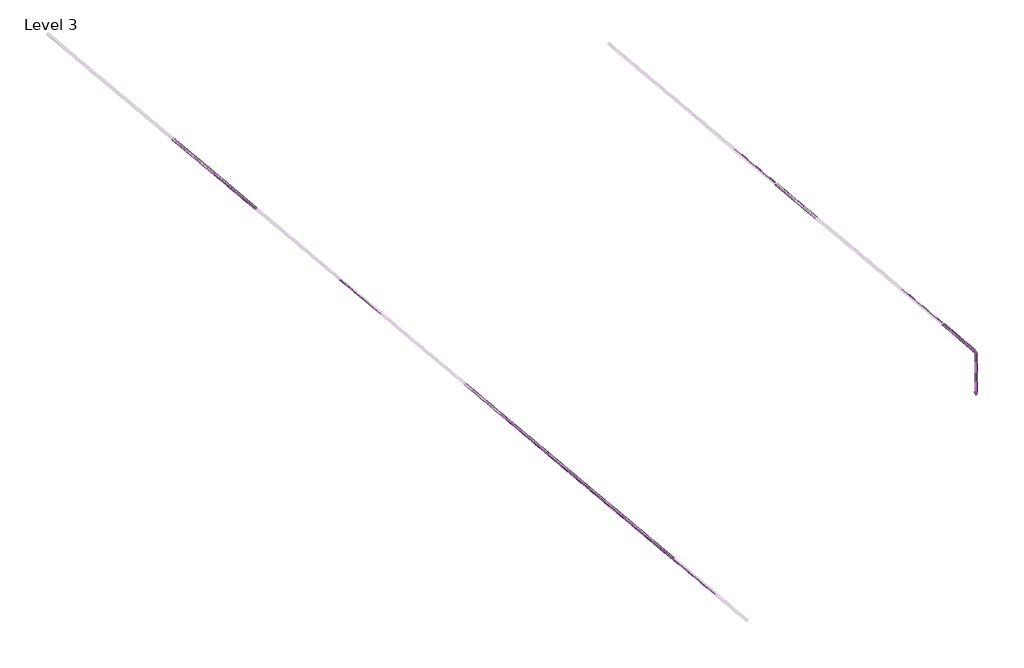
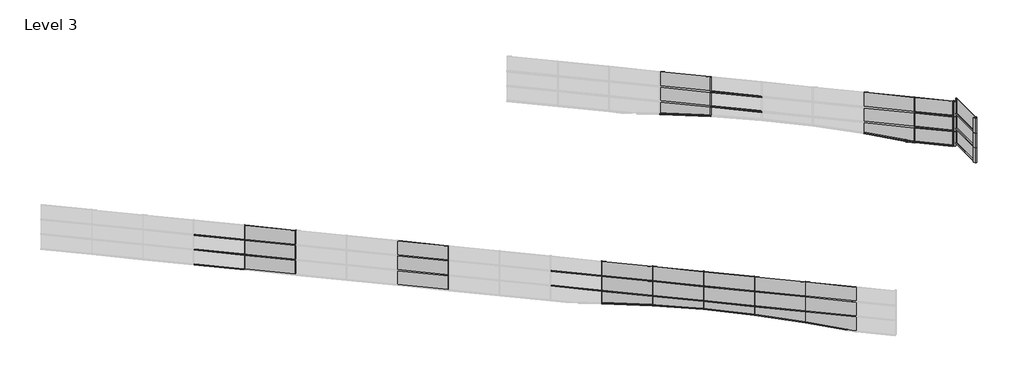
# One storey, part 2 of 4: 69 members, 33 plates.
"""IFC4 building model written with IfcOpenShell, lengths in millimetres."""

from ifc_helpers import new_model, si_unit, origin, place, context, project, spatial, transform, mapped, element, save
from components import member_e6b937b8, member_1b704979, member_8a95ad52, member_4b96d913, member_bcc2c360, member_0c159b81, member_9701ffe2, member_53b3c237, member_f7e23fb3, member_eaba9652, member_34764c31, member_ec9694ca, member_26eb6216, member_3cf8d118, member_5437e2d3, member_d1924ed8, member_3940caa4, member_687d04d0, member_a7cc08f1, member_de1d594c, member_6abdc42e, member_db8f3720, system_panel_glazed_a2c5a472, system_panel_glazed_07eba4bf, system_panel_glazed_742ad3c2, system_panel_glazed_89b2061c, system_panel_glazed_01c37e40, system_panel_glazed_45f33731, system_panel_glazed_fc520028, system_panel_glazed_1d67b1a0, system_panel_glazed_6646462b, system_panel_glazed_a22f2db4

model = new_model("IFC4")

# Units and contexts
model_context = context("Model", 3, world=origin())
ifc_project = project(units=[si_unit("LENGTHUNIT", "METRE", prefix="MILLI")], contexts=[model_context])

# Site, building, storey
site = spatial("IfcSite", under=ifc_project)
building = spatial("IfcBuilding", under=site)
storey = spatial("IfcBuildingStorey", under=building, Name="Level 3", Elevation=6096.0)

# Members
placement = place(None, origin())
member_shape = member_e6b937b8(model_context)
element("IfcMember", 1, ObjectType="Rectangular Mullion : 1.5\" x 2.5\" rectangular", at=placement, inside=storey, context=model_context, shape_type="MappedRepresentation", body=[
    mapped(member_shape, transform((-7247.6950357, 14670.8184669, 7200.3444177), x_axis=(0.76604444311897, -0.6427876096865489, 0.0), y_axis=(0.6427876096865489, 0.76604444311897, 0.0), z_axis=(0.0, 0.0, 1.0))),
])
element("IfcMember", 2, ObjectType="Rectangular Mullion : 1.5\" x 2.5\" rectangular", at=placement, inside=storey, context=model_context, shape_type="MappedRepresentation", body=[
    mapped(member_shape, transform((-16587.3088862, 22507.6850042, 8267.1444177), x_axis=(0.76604444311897, -0.6427876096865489, 0.0), y_axis=(0.6427876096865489, 0.76604444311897, 0.0), z_axis=(0.0, 0.0, 1.0))),
])
element("IfcMember", 3, ObjectType="Rectangular Mullion : 1.5\" x 2.5\" rectangular", at=placement, inside=storey, context=model_context, shape_type="MappedRepresentation", body=[
    mapped(member_shape, transform((-7247.6950357, 14670.8184669, 8267.1444177), x_axis=(0.76604444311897, -0.6427876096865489, 0.0), y_axis=(0.6427876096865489, 0.76604444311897, 0.0), z_axis=(0.0, 0.0, 1.0))),
])
element("IfcMember", 4, ObjectType="Rectangular Mullion : 1.5\" x 2.5\" rectangular", at=placement, inside=storey, context=model_context, shape_type="MappedRepresentation", body=[
    mapped(member_shape, transform((-16587.3088862, 22507.6850042, 9333.9444177), x_axis=(0.76604444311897, -0.6427876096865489, 0.0), y_axis=(0.6427876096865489, 0.76604444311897, 0.0), z_axis=(0.0, 0.0, 1.0))),
])
element("IfcMember", 5, ObjectType="Rectangular Mullion : 1.5\" x 2.5\" rectangular", at=placement, inside=storey, context=model_context, shape_type="MappedRepresentation", body=[
    mapped(member_shape, transform((-7247.6950357, 14670.8184669, 9333.9444177), x_axis=(0.76604444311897, -0.6427876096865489, 0.0), y_axis=(0.6427876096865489, 0.76604444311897, 0.0), z_axis=(0.0, 0.0, 1.0))),
])
element("IfcMember", 6, ObjectType="Rectangular Mullion : 1.5\" x 2.5\" rectangular", at=placement, inside=storey, context=model_context, shape_type="MappedRepresentation", body=[
    mapped(member_shape, transform((-22271.5874816, 1507.8868941, 8267.1444177), x_axis=(-0.76604444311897, 0.6427876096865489, 0.0), y_axis=(-0.6427876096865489, -0.76604444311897, 0.0), z_axis=(0.0, 0.0, 1.0))),
])
element("IfcMember", 7, ObjectType="Rectangular Mullion : 1.5\" x 2.5\" rectangular", at=placement, inside=storey, context=model_context, shape_type="MappedRepresentation", body=[
    mapped(member_shape, transform((-24606.4909442, 3467.1035284, 8267.1444177), x_axis=(-0.76604444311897, 0.6427876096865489, 0.0), y_axis=(-0.6427876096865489, -0.76604444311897, 0.0), z_axis=(0.0, 0.0, 1.0))),
])
element("IfcMember", 8, ObjectType="Rectangular Mullion : 1.5\" x 2.5\" rectangular", at=placement, inside=storey, context=model_context, shape_type="MappedRepresentation", body=[
    mapped(member_shape, transform((-26941.3944069, 5426.3201627, 8267.1444177), x_axis=(-0.76604444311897, 0.6427876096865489, 0.0), y_axis=(-0.6427876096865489, -0.76604444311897, 0.0), z_axis=(0.0, 0.0, 1.0))),
])
element("IfcMember", 9, ObjectType="Rectangular Mullion : 1.5\" x 2.5\" rectangular", at=placement, inside=storey, context=model_context, shape_type="MappedRepresentation", body=[
    mapped(member_shape, transform((-29276.2978695, 7385.536797, 8267.1444177), x_axis=(-0.76604444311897, 0.6427876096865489, 0.0), y_axis=(-0.6427876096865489, -0.76604444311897, 0.0), z_axis=(0.0, 0.0, 1.0))),
])
element("IfcMember", 10, ObjectType="Rectangular Mullion : 1.5\" x 2.5\" rectangular", at=placement, inside=storey, context=model_context, shape_type="MappedRepresentation", body=[
    mapped(member_shape, transform((-31611.2013321, 9344.7534314, 8267.1444177), x_axis=(-0.76604444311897, 0.6427876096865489, 0.0), y_axis=(-0.6427876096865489, -0.76604444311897, 0.0), z_axis=(0.0, 0.0, 1.0))),
])
element("IfcMember", 11, ObjectType="Rectangular Mullion : 1.5\" x 2.5\" rectangular", at=placement, inside=storey, context=model_context, shape_type="MappedRepresentation", body=[
    mapped(member_shape, transform((-22271.5874816, 1507.8868941, 9333.9444177), x_axis=(-0.76604444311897, 0.6427876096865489, 0.0), y_axis=(-0.6427876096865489, -0.76604444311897, 0.0), z_axis=(0.0, 0.0, 1.0))),
])
element("IfcMember", 12, ObjectType="Rectangular Mullion : 1.5\" x 2.5\" rectangular", at=placement, inside=storey, context=model_context, shape_type="MappedRepresentation", body=[
    mapped(member_shape, transform((-24606.4909442, 3467.1035284, 9333.9444177), x_axis=(-0.76604444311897, 0.6427876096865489, 0.0), y_axis=(-0.6427876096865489, -0.76604444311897, 0.0), z_axis=(0.0, 0.0, 1.0))),
])
element("IfcMember", 13, ObjectType="Rectangular Mullion : 1.5\" x 2.5\" rectangular", at=placement, inside=storey, context=model_context, shape_type="MappedRepresentation", body=[
    mapped(member_shape, transform((-26941.3944069, 5426.3201627, 9333.9444177), x_axis=(-0.76604444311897, 0.6427876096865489, 0.0), y_axis=(-0.6427876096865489, -0.76604444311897, 0.0), z_axis=(0.0, 0.0, 1.0))),
])
element("IfcMember", 14, ObjectType="Rectangular Mullion : 1.5\" x 2.5\" rectangular", at=placement, inside=storey, context=model_context, shape_type="MappedRepresentation", body=[
    mapped(member_shape, transform((-29276.2978695, 7385.536797, 9333.9444177), x_axis=(-0.76604444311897, 0.6427876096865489, 0.0), y_axis=(-0.6427876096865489, -0.76604444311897, 0.0), z_axis=(0.0, 0.0, 1.0))),
])
element("IfcMember", 15, ObjectType="Rectangular Mullion : 1.5\" x 2.5\" rectangular", at=placement, inside=storey, context=model_context, shape_type="MappedRepresentation", body=[
    mapped(member_shape, transform((-31611.2013321, 9344.7534314, 9333.9444177), x_axis=(-0.76604444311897, 0.6427876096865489, 0.0), y_axis=(-0.6427876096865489, -0.76604444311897, 0.0), z_axis=(0.0, 0.0, 1.0))),
])
element("IfcMember", 16, ObjectType="Rectangular Mullion : 1.5\" x 2.5\" rectangular", at=placement, inside=storey, context=model_context, shape_type="MappedRepresentation", body=[
    mapped(member_shape, transform((-45620.6221079, 21100.0532373, 7200.3444177), x_axis=(-0.76604444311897, 0.6427876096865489, 0.0), y_axis=(-0.6427876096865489, -0.76604444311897, 0.0), z_axis=(0.0, 0.0, 1.0))),
])
element("IfcMember", 17, ObjectType="Rectangular Mullion : 1.5\" x 2.5\" rectangular", at=placement, inside=storey, context=model_context, shape_type="MappedRepresentation", body=[
    mapped(member_shape, transform((-47955.5255705, 23059.2698716, 7200.3444177), x_axis=(-0.76604444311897, 0.6427876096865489, 0.0), y_axis=(-0.6427876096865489, -0.76604444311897, 0.0), z_axis=(0.0, 0.0, 1.0))),
])
element("IfcMember", 18, ObjectType="Rectangular Mullion : 1.5\" x 2.5\" rectangular", at=placement, inside=storey, context=model_context, shape_type="MappedRepresentation", body=[
    mapped(member_shape, transform((-45620.6221079, 21100.0532373, 8267.1444177), x_axis=(-0.76604444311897, 0.6427876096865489, 0.0), y_axis=(-0.6427876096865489, -0.76604444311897, 0.0), z_axis=(0.0, 0.0, 1.0))),
])
element("IfcMember", 19, ObjectType="Rectangular Mullion : 1.5\" x 2.5\" rectangular", at=placement, inside=storey, context=model_context, shape_type="MappedRepresentation", body=[
    mapped(member_shape, transform((-47955.5255705, 23059.2698716, 8267.1444177), x_axis=(-0.76604444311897, 0.6427876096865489, 0.0), y_axis=(-0.6427876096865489, -0.76604444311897, 0.0), z_axis=(0.0, 0.0, 1.0))),
])
element("IfcMember", 20, ObjectType="Rectangular Mullion : 1.5\" x 2.5\" rectangular", at=placement, inside=storey, context=model_context, shape_type="MappedRepresentation", body=[
    mapped(member_shape, transform((-45620.6221079, 21100.0532373, 9333.9444177), x_axis=(-0.76604444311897, 0.6427876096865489, 0.0), y_axis=(-0.6427876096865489, -0.76604444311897, 0.0), z_axis=(0.0, 0.0, 1.0))),
])
element("IfcMember", 21, ObjectType="Rectangular Mullion : 1.5\" x 2.5\" rectangular", at=placement, inside=storey, context=model_context, shape_type="MappedRepresentation", body=[
    mapped(member_shape, transform((-47955.5255705, 23059.2698716, 9333.9444177), x_axis=(-0.76604444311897, 0.6427876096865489, 0.0), y_axis=(-0.6427876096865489, -0.76604444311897, 0.0), z_axis=(0.0, 0.0, 1.0))),
])
member_2_shape = member_1b704979(model_context)
element("IfcMember", 22, ObjectType="Rectangular Mullion : 1.5\" x 2.5\" rectangular", at=placement, inside=storey, context=model_context, shape_type="MappedRepresentation", body=[
    mapped(member_2_shape, transform((-5348.7113943, 13077.3819938, 6400.8), x_axis=(0.0, 1.0, 0.0), y_axis=(1.0, 0.0, 0.0), z_axis=(0.0, 0.0, -1.0))),
])
element("IfcMember", 23, ObjectType="Rectangular Mullion : 1.5\" x 2.5\" rectangular", at=placement, inside=storey, context=model_context, shape_type="MappedRepresentation", body=[
    mapped(member_2_shape, transform((-5348.7113943, 13077.3819938, 7467.6), x_axis=(0.0, 1.0, 0.0), y_axis=(1.0, 0.0, 0.0), z_axis=(0.0, 0.0, -1.0))),
])
element("IfcMember", 24, ObjectType="Rectangular Mullion : 1.5\" x 2.5\" rectangular", at=placement, inside=storey, context=model_context, shape_type="MappedRepresentation", body=[
    mapped(member_2_shape, transform((-5348.7113943, 13077.3819938, 8534.4), x_axis=(0.0, 1.0, 0.0), y_axis=(1.0, 0.0, 0.0), z_axis=(0.0, 0.0, -1.0))),
])
member_3_shape = member_8a95ad52(model_context)
element("IfcMember", 25, ObjectType="Rectangular Mullion : 1.5\" x 2.5\" rectangular", at=placement, inside=storey, context=model_context, shape_type="MappedRepresentation", body=[
    mapped(member_3_shape, transform((-7247.6950357, 14670.8184669, 6133.5444177), x_axis=(0.76604444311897, -0.6427876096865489, 0.0), y_axis=(0.6427876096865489, 0.76604444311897, 0.0), z_axis=(0.0, 0.0, 1.0))),
])
member_4_shape = member_4b96d913(model_context)
element("IfcMember", 26, ObjectType="Rectangular Mullion : 1.5\" x 2.5\" rectangular", at=placement, inside=storey, context=model_context, shape_type="MappedRepresentation", body=[
    mapped(member_4_shape, transform((-16587.3088862, 22507.6850042, 7200.3444177), x_axis=(0.76604444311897, -0.6427876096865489, 0.0), y_axis=(0.6427876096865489, 0.76604444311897, 0.0), z_axis=(0.0, 0.0, 1.0))),
])
member_5_shape = member_bcc2c360(model_context)
element("IfcMember", 27, ObjectType="Rectangular Mullion : 1.5\" x 2.5\" rectangular", at=placement, inside=storey, context=model_context, shape_type="MappedRepresentation", body=[
    mapped(member_5_shape, transform((-22271.5874816, 1507.8868941, 7200.3444177), x_axis=(-0.76604444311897, 0.6427876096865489, 0.0), y_axis=(-0.6427876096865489, -0.76604444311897, 0.0), z_axis=(0.0, 0.0, 1.0))),
])
member_6_shape = member_0c159b81(model_context)
element("IfcMember", 28, ObjectType="Rectangular Mullion : 1.5\" x 2.5\" rectangular", at=placement, inside=storey, context=model_context, shape_type="MappedRepresentation", body=[
    mapped(member_6_shape, transform((-24606.4909442, 3467.1035284, 7200.3444177), x_axis=(-0.76604444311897, 0.6427876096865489, 0.0), y_axis=(-0.6427876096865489, -0.76604444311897, 0.0), z_axis=(0.0, 0.0, 1.0))),
])
member_7_shape = member_9701ffe2(model_context)
element("IfcMember", 29, ObjectType="Rectangular Mullion : 1.5\" x 2.5\" rectangular", at=placement, inside=storey, context=model_context, shape_type="MappedRepresentation", body=[
    mapped(member_7_shape, transform((-26941.3944069, 5426.3201627, 7200.3444177), x_axis=(-0.76604444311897, 0.6427876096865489, 0.0), y_axis=(-0.6427876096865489, -0.76604444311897, 0.0), z_axis=(0.0, 0.0, 1.0))),
])
member_8_shape = member_53b3c237(model_context)
element("IfcMember", 30, ObjectType="Rectangular Mullion : 1.5\" x 2.5\" rectangular", at=placement, inside=storey, context=model_context, shape_type="MappedRepresentation", body=[
    mapped(member_8_shape, transform((-29276.2978695, 7385.536797, 7200.3444177), x_axis=(-0.76604444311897, 0.6427876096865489, 0.0), y_axis=(-0.6427876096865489, -0.76604444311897, 0.0), z_axis=(0.0, 0.0, 1.0))),
])
member_9_shape = member_f7e23fb3(model_context)
element("IfcMember", 31, ObjectType="Rectangular Mullion : 1.5\" x 2.5\" rectangular", at=placement, inside=storey, context=model_context, shape_type="MappedRepresentation", body=[
    mapped(member_9_shape, transform((-31611.2013321, 9344.7534314, 7200.3444177), x_axis=(-0.76604444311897, 0.6427876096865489, 0.0), y_axis=(-0.6427876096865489, -0.76604444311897, 0.0), z_axis=(0.0, 0.0, 1.0))),
])
member_10_shape = member_eaba9652(model_context)
element("IfcMember", 32, ObjectType="Rectangular Mullion : 2.5\" x 5\" rectangular", at=placement, inside=storey, context=model_context, shape_type="MappedRepresentation", body=[
    mapped(member_10_shape, transform((-16587.3088862, 22507.6850042, 7232.0944177), x_axis=(0.0, 0.0, 1.0), y_axis=(0.6427876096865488, 0.7660444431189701, 0.0), z_axis=(-0.7660444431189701, 0.6427876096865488, 0.0))),
])
element("IfcMember", 33, ObjectType="Rectangular Mullion : 2.5\" x 5\" rectangular", at=placement, inside=storey, context=model_context, shape_type="MappedRepresentation", body=[
    mapped(member_10_shape, transform((-16587.3088862, 22507.6850042, 8298.8944177), x_axis=(0.0, 0.0, 1.0), y_axis=(0.6427876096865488, 0.7660444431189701, 0.0), z_axis=(-0.7660444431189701, 0.6427876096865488, 0.0))),
])
element("IfcMember", 34, ObjectType="Rectangular Mullion : 2.5\" x 5\" rectangular", at=placement, inside=storey, context=model_context, shape_type="MappedRepresentation", body=[
    mapped(member_10_shape, transform((-22271.5874816, 1507.8868941, 7232.0944177), x_axis=(0.0, 0.0, 1.0), y_axis=(-0.6427876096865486, -0.7660444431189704, 0.0), z_axis=(0.7660444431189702, -0.6427876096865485, 0.0))),
])
element("IfcMember", 35, ObjectType="Rectangular Mullion : 2.5\" x 5\" rectangular", at=placement, inside=storey, context=model_context, shape_type="MappedRepresentation", body=[
    mapped(member_10_shape, transform((-24606.4909442, 3467.1035284, 7232.0944177), x_axis=(0.0, 0.0, 1.0), y_axis=(-0.6427876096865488, -0.7660444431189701, 0.0), z_axis=(0.7660444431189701, -0.6427876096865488, 0.0))),
])
element("IfcMember", 36, ObjectType="Rectangular Mullion : 2.5\" x 5\" rectangular", at=placement, inside=storey, context=model_context, shape_type="MappedRepresentation", body=[
    mapped(member_10_shape, transform((-26941.3944069, 5426.3201627, 7232.0944177), x_axis=(0.0, 0.0, 1.0), y_axis=(-0.6427876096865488, -0.7660444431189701, 0.0), z_axis=(0.7660444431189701, -0.6427876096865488, 0.0))),
])
element("IfcMember", 37, ObjectType="Rectangular Mullion : 2.5\" x 5\" rectangular", at=placement, inside=storey, context=model_context, shape_type="MappedRepresentation", body=[
    mapped(member_10_shape, transform((-29276.2978695, 7385.536797, 7232.0944177), x_axis=(0.0, 0.0, 1.0), y_axis=(-0.6427876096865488, -0.7660444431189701, 0.0), z_axis=(0.7660444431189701, -0.6427876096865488, 0.0))),
])
element("IfcMember", 38, ObjectType="Rectangular Mullion : 2.5\" x 5\" rectangular", at=placement, inside=storey, context=model_context, shape_type="MappedRepresentation", body=[
    mapped(member_10_shape, transform((-31611.2013321, 9344.7534314, 7232.0944177), x_axis=(0.0, 0.0, 1.0), y_axis=(-0.6427876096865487, -0.7660444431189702, 0.0), z_axis=(0.7660444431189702, -0.6427876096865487, 0.0))),
])
element("IfcMember", 39, ObjectType="Rectangular Mullion : 2.5\" x 5\" rectangular", at=placement, inside=storey, context=model_context, shape_type="MappedRepresentation", body=[
    mapped(member_10_shape, transform((-22271.5874816, 1507.8868941, 8298.8944177), x_axis=(0.0, 0.0, 1.0), y_axis=(-0.6427876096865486, -0.7660444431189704, 0.0), z_axis=(0.7660444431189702, -0.6427876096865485, 0.0))),
])
element("IfcMember", 40, ObjectType="Rectangular Mullion : 2.5\" x 5\" rectangular", at=placement, inside=storey, context=model_context, shape_type="MappedRepresentation", body=[
    mapped(member_10_shape, transform((-24606.4909442, 3467.1035284, 8298.8944177), x_axis=(0.0, 0.0, 1.0), y_axis=(-0.6427876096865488, -0.7660444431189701, 0.0), z_axis=(0.7660444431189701, -0.6427876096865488, 0.0))),
])
element("IfcMember", 41, ObjectType="Rectangular Mullion : 2.5\" x 5\" rectangular", at=placement, inside=storey, context=model_context, shape_type="MappedRepresentation", body=[
    mapped(member_10_shape, transform((-26941.3944069, 5426.3201627, 8298.8944177), x_axis=(0.0, 0.0, 1.0), y_axis=(-0.6427876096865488, -0.7660444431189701, 0.0), z_axis=(0.7660444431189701, -0.6427876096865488, 0.0))),
])
element("IfcMember", 42, ObjectType="Rectangular Mullion : 2.5\" x 5\" rectangular", at=placement, inside=storey, context=model_context, shape_type="MappedRepresentation", body=[
    mapped(member_10_shape, transform((-29276.2978695, 7385.536797, 8298.8944177), x_axis=(0.0, 0.0, 1.0), y_axis=(-0.6427876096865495, -0.7660444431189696, 0.0), z_axis=(0.7660444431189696, -0.6427876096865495, 0.0))),
])
element("IfcMember", 43, ObjectType="Rectangular Mullion : 2.5\" x 5\" rectangular", at=placement, inside=storey, context=model_context, shape_type="MappedRepresentation", body=[
    mapped(member_10_shape, transform((-31611.2013321, 9344.7534314, 8298.8944177), x_axis=(0.0, 0.0, 1.0), y_axis=(-0.6427876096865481, -0.7660444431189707, 0.0), z_axis=(0.7660444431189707, -0.6427876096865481, 0.0))),
])
element("IfcMember", 44, ObjectType="Rectangular Mullion : 2.5\" x 5\" rectangular", at=placement, inside=storey, context=model_context, shape_type="MappedRepresentation", body=[
    mapped(member_10_shape, transform((-47955.5255705, 23059.2698716, 6165.2944177), x_axis=(0.0, 0.0, 1.0), y_axis=(-0.642787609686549, -0.76604444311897, 0.0), z_axis=(0.7660444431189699, -0.6427876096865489, 0.0))),
])
element("IfcMember", 45, ObjectType="Rectangular Mullion : 2.5\" x 5\" rectangular", at=placement, inside=storey, context=model_context, shape_type="MappedRepresentation", body=[
    mapped(member_10_shape, transform((-45620.6221079, 21100.0532373, 7232.0944177), x_axis=(0.0, 0.0, 1.0), y_axis=(-0.64278760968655, -0.766044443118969, 0.0), z_axis=(0.766044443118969, -0.64278760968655, 0.0))),
])
element("IfcMember", 46, ObjectType="Rectangular Mullion : 2.5\" x 5\" rectangular", at=placement, inside=storey, context=model_context, shape_type="MappedRepresentation", body=[
    mapped(member_10_shape, transform((-47955.5255705, 23059.2698716, 7232.0944177), x_axis=(0.0, 0.0, 1.0), y_axis=(-0.642787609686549, -0.76604444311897, 0.0), z_axis=(0.7660444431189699, -0.6427876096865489, 0.0))),
])
element("IfcMember", 47, ObjectType="Rectangular Mullion : 2.5\" x 5\" rectangular", at=placement, inside=storey, context=model_context, shape_type="MappedRepresentation", body=[
    mapped(member_10_shape, transform((-45620.6221079, 21100.0532373, 8298.8944177), x_axis=(0.0, 0.0, 1.0), y_axis=(-0.6427876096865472, -0.7660444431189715, 0.0), z_axis=(0.7660444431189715, -0.6427876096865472, 0.0))),
])
element("IfcMember", 48, ObjectType="Rectangular Mullion : 2.5\" x 5\" rectangular", at=placement, inside=storey, context=model_context, shape_type="MappedRepresentation", body=[
    mapped(member_10_shape, transform((-47955.5255705, 23059.2698716, 8298.8944177), x_axis=(0.0, 0.0, 1.0), y_axis=(-0.642787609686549, -0.76604444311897, 0.0), z_axis=(0.7660444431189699, -0.6427876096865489, 0.0))),
])
member_11_shape = member_34764c31(model_context)
element("IfcMember", 49, ObjectType="Rectangular Mullion : 2.5\" x 5\" rectangular", at=placement, inside=storey, context=model_context, shape_type="MappedRepresentation", body=[
    mapped(member_11_shape, transform((-5348.7113943, 13039.2819938, 6400.8), x_axis=(0.0, 0.0, 1.0), y_axis=(1.0, 0.0, 0.0), z_axis=(0.0, 1.0, 0.0))),
])
element("IfcMember", 50, ObjectType="Rectangular Mullion : 2.5\" x 5\" rectangular", at=placement, inside=storey, context=model_context, shape_type="MappedRepresentation", body=[
    mapped(member_11_shape, transform((-5348.7113943, 13039.2819938, 7467.6), x_axis=(0.0, 0.0, 1.0), y_axis=(1.0, 0.0, 0.0), z_axis=(0.0, 1.0, 0.0))),
])
element("IfcMember", 51, ObjectType="Rectangular Mullion : 2.5\" x 5\" rectangular", at=placement, inside=storey, context=model_context, shape_type="MappedRepresentation", body=[
    mapped(member_11_shape, transform((-5348.7113943, 13039.2819938, 8534.4), x_axis=(0.0, 0.0, 1.0), y_axis=(1.0, 0.0, 0.0), z_axis=(0.0, 1.0, 0.0))),
])
member_12_shape = member_ec9694ca(model_context)
element("IfcMember", 52, ObjectType="Rectangular Mullion : 2.5\" x 5\" rectangular", at=placement, inside=storey, context=model_context, shape_type="MappedRepresentation", body=[
    mapped(member_12_shape, transform((-7247.6950357, 14670.8184669, 6165.2944177), x_axis=(0.0, 0.0, 1.0), y_axis=(0.6427876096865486, 0.7660444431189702, 0.0), z_axis=(-0.7660444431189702, 0.6427876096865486, 0.0))),
])
element("IfcMember", 53, ObjectType="Rectangular Mullion : 2.5\" x 5\" rectangular", at=placement, inside=storey, context=model_context, shape_type="MappedRepresentation", body=[
    mapped(member_12_shape, transform((-7247.6950357, 14670.8184669, 7232.0944177), x_axis=(0.0, 0.0, 1.0), y_axis=(0.6427876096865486, 0.7660444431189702, 0.0), z_axis=(-0.7660444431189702, 0.6427876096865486, 0.0))),
])
element("IfcMember", 54, ObjectType="Rectangular Mullion : 2.5\" x 5\" rectangular", at=placement, inside=storey, context=model_context, shape_type="MappedRepresentation", body=[
    mapped(member_12_shape, transform((-7247.6950357, 14670.8184669, 8298.8944177), x_axis=(0.0, 0.0, 1.0), y_axis=(0.6427876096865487, 0.7660444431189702, 0.0), z_axis=(-0.7660444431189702, 0.6427876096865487, 0.0))),
])
member_13_shape = member_26eb6216(model_context)
element("IfcMember", 55, ObjectType="Rectangular Mullion : 2.5\" x 5\" rectangular", at=placement, inside=storey, context=model_context, shape_type="MappedRepresentation", body=[
    mapped(member_13_shape, transform((-7644.1889217, 15003.5163404, 6165.2944177), x_axis=(0.0, 0.0, 1.0), y_axis=(0.6427876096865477, 0.766044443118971, 0.0), z_axis=(-0.766044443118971, 0.6427876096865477, 0.0))),
])
member_14_shape = member_3cf8d118(model_context)
element("IfcMember", 56, ObjectType="Rectangular Mullion : 2.5\" x 5\" rectangular", at=placement, inside=storey, context=model_context, shape_type="MappedRepresentation", body=[
    mapped(member_14_shape, transform((-16587.3088862, 22507.6850042, 6535.0816932), x_axis=(0.056130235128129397, -0.04709885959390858, -0.9973119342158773), y_axis=(0.642787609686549, 0.76604444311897, 0.0), z_axis=(0.7639852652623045, -0.6410597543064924, 0.07327281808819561))),
])
member_15_shape = member_5437e2d3(model_context)
element("IfcMember", 57, ObjectType="Rectangular Mullion : 2.5\" x 5\" rectangular", at=placement, inside=storey, context=model_context, shape_type="MappedRepresentation", body=[
    mapped(member_15_shape, transform((-7247.6950357, 14670.8184669, 6103.6088093), x_axis=(-0.09065519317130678, 0.07606873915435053, -0.992972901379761), y_axis=(0.6427876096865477, 0.7660444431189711, 0.0), z_axis=(0.760661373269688, -0.6382706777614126, -0.11834194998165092))),
])
member_16_shape = member_d1924ed8(model_context)
element("IfcMember", 58, ObjectType="Rectangular Mullion : 2.5\" x 5\" rectangular", at=placement, inside=storey, context=model_context, shape_type="MappedRepresentation", body=[
    mapped(member_16_shape, transform((-7644.1889217, 15003.5163404, 6165.2944177), x_axis=(-0.07404514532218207, 0.06213125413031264, -0.9953175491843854), y_axis=(0.6427876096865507, 0.7660444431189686, 0.0), z_axis=(0.762457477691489, -0.6397777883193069, -0.09665907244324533))),
])
member_17_shape = member_3940caa4(model_context)
element("IfcMember", 59, ObjectType="Rectangular Mullion : 2.5\" x 5\" rectangular", at=placement, inside=storey, context=model_context, shape_type="MappedRepresentation", body=[
    mapped(member_17_shape, transform((-22271.5874816, 1507.8868941, 6411.0325358), x_axis=(-0.0740451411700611, 0.06213125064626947, -0.9953175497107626), y_axis=(-0.6427876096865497, -0.7660444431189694, 0.0), z_axis=(-0.7624574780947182, 0.6397777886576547, 0.09665906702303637))),
])
member_18_shape = member_687d04d0(model_context)
element("IfcMember", 60, ObjectType="Rectangular Mullion : 2.5\" x 5\" rectangular", at=placement, inside=storey, context=model_context, shape_type="MappedRepresentation", body=[
    mapped(member_18_shape, transform((-24606.4909442, 3467.1035284, 6584.8842876), x_axis=(-0.043622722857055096, 0.03660381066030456, -0.9983772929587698), y_axis=(-0.6427876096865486, -0.7660444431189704, 0.0), z_axis=(-0.7648013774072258, 0.6417445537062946, 0.05694542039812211))),
])
member_19_shape = member_a7cc08f1(model_context)
element("IfcMember", 61, ObjectType="Rectangular Mullion : 2.5\" x 5\" rectangular", at=placement, inside=storey, context=model_context, shape_type="MappedRepresentation", body=[
    mapped(member_19_shape, transform((-26941.3944069, 5426.3201627, 6626.1559819), x_axis=(-0.010371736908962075, 0.00870292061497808, -0.9999083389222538), y_axis=(-0.6427876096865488, -0.76604444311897, 0.0), z_axis=(-0.7659742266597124, 0.642728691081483, 0.01353934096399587))),
])
member_20_shape = member_de1d594c(model_context)
element("IfcMember", 62, ObjectType="Rectangular Mullion : 2.5\" x 5\" rectangular", at=placement, inside=storey, context=model_context, shape_type="MappedRepresentation", body=[
    mapped(member_20_shape, transform((-29276.2978695, 7385.536797, 6535.0816494), x_axis=(0.022879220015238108, -0.019197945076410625, -0.9995538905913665), y_axis=(-0.6427876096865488, -0.7660444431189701, 0.0), z_axis=(-0.7657027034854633, 0.6425008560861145, -0.029866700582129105))),
])
member_21_shape = member_6abdc42e(model_context)
element("IfcMember", 63, ObjectType="Rectangular Mullion : 2.5\" x 5\" rectangular", at=placement, inside=storey, context=model_context, shape_type="MappedRepresentation", body=[
    mapped(member_21_shape, transform((-31611.2013321, 9344.7534314, 6311.1441342), x_axis=(0.05613023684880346, -0.04709886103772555, -0.9973119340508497), y_axis=(-0.6427876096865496, -0.7660444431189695, 0.0), z_axis=(-0.7639852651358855, 0.6410597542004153, -0.07327282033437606))),
])
member_22_shape = member_db8f3720(model_context)
element("IfcMember", 64, ObjectType="V Corner Mullion : 5\" V Corner", at=placement, inside=storey, context=model_context, shape_type="MappedRepresentation", body=[
    mapped(member_22_shape, transform((-5348.7113943, 10769.3870607, 7467.6), x_axis=(0.0, -1.0, 0.0), y_axis=(1.0, 0.0, 0.0), z_axis=(0.0, 0.0, 1.0))),
])
element("IfcMember", 65, ObjectType="V Corner Mullion : 5\" V Corner", at=placement, inside=storey, context=model_context, shape_type="MappedRepresentation", body=[
    mapped(member_22_shape, transform((-5348.7113943, 10769.3870607, 8534.4), x_axis=(0.0, -1.0, 0.0), y_axis=(1.0, 0.0, 0.0), z_axis=(0.0, 0.0, 1.0))),
])
element("IfcMember", 66, ObjectType="V Corner Mullion : 5\" V Corner", at=placement, inside=storey, context=model_context, shape_type="MappedRepresentation", body=[
    mapped(member_22_shape, transform((-5348.7113943, 10769.3870607, 9601.2), x_axis=(0.0, -1.0, 0.0), y_axis=(1.0, 0.0, 0.0), z_axis=(0.0, 0.0, 1.0))),
])
element("IfcMember", 67, ObjectType="V Corner Mullion : 5\" V Corner", at=placement, inside=storey, context=model_context, shape_type="MappedRepresentation", body=[
    mapped(member_22_shape, transform((-5440.5496741, 13154.4434605, 7232.0944177), x_axis=(0.76604444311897, -0.6427876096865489, 0.0), y_axis=(0.6427876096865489, 0.76604444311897, 0.0), z_axis=(0.0, 0.0, 1.0))),
])
element("IfcMember", 68, ObjectType="V Corner Mullion : 5\" V Corner", at=placement, inside=storey, context=model_context, shape_type="MappedRepresentation", body=[
    mapped(member_22_shape, transform((-5440.5496741, 13154.4434605, 8298.8944177), x_axis=(0.76604444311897, -0.6427876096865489, 0.0), y_axis=(0.6427876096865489, 0.76604444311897, 0.0), z_axis=(0.0, 0.0, 1.0))),
])
element("IfcMember", 69, ObjectType="V Corner Mullion : 5\" V Corner", at=placement, inside=storey, context=model_context, shape_type="MappedRepresentation", body=[
    mapped(member_22_shape, transform((-5440.5496741, 13154.4434605, 9365.6944177), x_axis=(0.76604444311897, -0.6427876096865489, 0.0), y_axis=(0.6427876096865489, 0.76604444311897, 0.0), z_axis=(0.0, 0.0, 1.0))),
])

# Plates
system_panel_glazed_shape = system_panel_glazed_a2c5a472(model_context)
element("IfcPlate", 70, ObjectType="System Panel : Glazed", at=placement, inside=storey, context=model_context, shape_type="MappedRepresentation", body=[
    mapped(system_panel_glazed_shape, transform((-39783.3634513, 16202.0116515, 6197.0444177), x_axis=(-0.76604444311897, 0.6427876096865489, 0.0), y_axis=(-0.6427876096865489, -0.76604444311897, 0.0), z_axis=(0.0, 0.0, 1.0))),
])
element("IfcPlate", 71, ObjectType="System Panel : Glazed", at=placement, inside=storey, context=model_context, shape_type="MappedRepresentation", body=[
    mapped(system_panel_glazed_shape, transform((-21104.1357503, 528.2785769, 7263.8444177), x_axis=(-0.76604444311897, 0.6427876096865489, 0.0), y_axis=(-0.6427876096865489, -0.76604444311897, 0.0), z_axis=(0.0, 0.0, 1.0))),
])
element("IfcPlate", 72, ObjectType="System Panel : Glazed", at=placement, inside=storey, context=model_context, shape_type="MappedRepresentation", body=[
    mapped(system_panel_glazed_shape, transform((-23439.0392129, 2487.4952112, 7263.8444177), x_axis=(-0.76604444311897, 0.6427876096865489, 0.0), y_axis=(-0.6427876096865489, -0.76604444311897, 0.0), z_axis=(0.0, 0.0, 1.0))),
])
element("IfcPlate", 73, ObjectType="System Panel : Glazed", at=placement, inside=storey, context=model_context, shape_type="MappedRepresentation", body=[
    mapped(system_panel_glazed_shape, transform((-25773.9426755, 4446.7118456, 7263.8444177), x_axis=(-0.76604444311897, 0.6427876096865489, 0.0), y_axis=(-0.6427876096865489, -0.76604444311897, 0.0), z_axis=(0.0, 0.0, 1.0))),
])
element("IfcPlate", 74, ObjectType="System Panel : Glazed", at=placement, inside=storey, context=model_context, shape_type="MappedRepresentation", body=[
    mapped(system_panel_glazed_shape, transform((-28108.8461382, 6405.9284799, 7263.8444177), x_axis=(-0.76604444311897, 0.6427876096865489, 0.0), y_axis=(-0.6427876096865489, -0.76604444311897, 0.0), z_axis=(0.0, 0.0, 1.0))),
])
element("IfcPlate", 75, ObjectType="System Panel : Glazed", at=placement, inside=storey, context=model_context, shape_type="MappedRepresentation", body=[
    mapped(system_panel_glazed_shape, transform((-30443.7496008, 8365.1451142, 7263.8444177), x_axis=(-0.76604444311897, 0.6427876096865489, 0.0), y_axis=(-0.6427876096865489, -0.76604444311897, 0.0), z_axis=(0.0, 0.0, 1.0))),
])
element("IfcPlate", 76, ObjectType="System Panel : Glazed", at=placement, inside=storey, context=model_context, shape_type="MappedRepresentation", body=[
    mapped(system_panel_glazed_shape, transform((-39783.3634513, 16202.0116515, 7263.8444177), x_axis=(-0.76604444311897, 0.6427876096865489, 0.0), y_axis=(-0.6427876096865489, -0.76604444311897, 0.0), z_axis=(0.0, 0.0, 1.0))),
])
element("IfcPlate", 77, ObjectType="System Panel : Glazed", at=placement, inside=storey, context=model_context, shape_type="MappedRepresentation", body=[
    mapped(system_panel_glazed_shape, transform((-21104.1357503, 528.2785769, 8330.6444177), x_axis=(-0.76604444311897, 0.6427876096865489, 0.0), y_axis=(-0.6427876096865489, -0.76604444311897, 0.0), z_axis=(0.0, 0.0, 1.0))),
])
element("IfcPlate", 78, ObjectType="System Panel : Glazed", at=placement, inside=storey, context=model_context, shape_type="MappedRepresentation", body=[
    mapped(system_panel_glazed_shape, transform((-23439.0392129, 2487.4952112, 8330.6444177), x_axis=(-0.76604444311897, 0.6427876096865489, 0.0), y_axis=(-0.6427876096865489, -0.76604444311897, 0.0), z_axis=(0.0, 0.0, 1.0))),
])
element("IfcPlate", 79, ObjectType="System Panel : Glazed", at=placement, inside=storey, context=model_context, shape_type="MappedRepresentation", body=[
    mapped(system_panel_glazed_shape, transform((-25773.9426755, 4446.7118456, 8330.6444177), x_axis=(-0.76604444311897, 0.6427876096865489, 0.0), y_axis=(-0.6427876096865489, -0.76604444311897, 0.0), z_axis=(0.0, 0.0, 1.0))),
])
element("IfcPlate", 80, ObjectType="System Panel : Glazed", at=placement, inside=storey, context=model_context, shape_type="MappedRepresentation", body=[
    mapped(system_panel_glazed_shape, transform((-28108.8461382, 6405.9284799, 8330.6444177), x_axis=(-0.76604444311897, 0.6427876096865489, 0.0), y_axis=(-0.6427876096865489, -0.76604444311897, 0.0), z_axis=(0.0, 0.0, 1.0))),
])
element("IfcPlate", 81, ObjectType="System Panel : Glazed", at=placement, inside=storey, context=model_context, shape_type="MappedRepresentation", body=[
    mapped(system_panel_glazed_shape, transform((-30443.7496008, 8365.1451142, 8330.6444177), x_axis=(-0.76604444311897, 0.6427876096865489, 0.0), y_axis=(-0.6427876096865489, -0.76604444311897, 0.0), z_axis=(0.0, 0.0, 1.0))),
])
element("IfcPlate", 82, ObjectType="System Panel : Glazed", at=placement, inside=storey, context=model_context, shape_type="MappedRepresentation", body=[
    mapped(system_panel_glazed_shape, transform((-39783.3634513, 16202.0116515, 8330.6444177), x_axis=(-0.76604444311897, 0.6427876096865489, 0.0), y_axis=(-0.6427876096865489, -0.76604444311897, 0.0), z_axis=(0.0, 0.0, 1.0))),
])
element("IfcPlate", 83, ObjectType="System Panel : Glazed", at=placement, inside=storey, context=model_context, shape_type="MappedRepresentation", body=[
    mapped(system_panel_glazed_shape, transform((-46788.0738392, 22079.6615545, 6197.0444177), x_axis=(-0.76604444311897, 0.6427876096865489, 0.0), y_axis=(-0.6427876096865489, -0.76604444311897, 0.0), z_axis=(0.0, 0.0, 1.0))),
])
element("IfcPlate", 84, ObjectType="System Panel : Glazed", at=placement, inside=storey, context=model_context, shape_type="MappedRepresentation", body=[
    mapped(system_panel_glazed_shape, transform((-46788.0738392, 22079.6615545, 7263.8444177), x_axis=(-0.76604444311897, 0.6427876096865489, 0.0), y_axis=(-0.6427876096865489, -0.76604444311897, 0.0), z_axis=(0.0, 0.0, 1.0))),
])
element("IfcPlate", 85, ObjectType="System Panel : Glazed", at=placement, inside=storey, context=model_context, shape_type="MappedRepresentation", body=[
    mapped(system_panel_glazed_shape, transform((-46788.0738392, 22079.6615545, 8330.6444177), x_axis=(-0.76604444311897, 0.6427876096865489, 0.0), y_axis=(-0.6427876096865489, -0.76604444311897, 0.0), z_axis=(0.0, 0.0, 1.0))),
])
element("IfcPlate", 86, ObjectType="System Panel : Glazed", at=placement, inside=storey, context=model_context, shape_type="MappedRepresentation", body=[
    mapped(system_panel_glazed_shape, transform((-17754.7606176, 23487.2933214, 7263.8444177), x_axis=(0.76604444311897, -0.6427876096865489, 0.0), y_axis=(0.6427876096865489, 0.76604444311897, 0.0), z_axis=(0.0, 0.0, 1.0))),
])
element("IfcPlate", 87, ObjectType="System Panel : Glazed", at=placement, inside=storey, context=model_context, shape_type="MappedRepresentation", body=[
    mapped(system_panel_glazed_shape, transform((-17754.7606176, 23487.2933214, 8330.6444177), x_axis=(0.76604444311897, -0.6427876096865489, 0.0), y_axis=(0.6427876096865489, 0.76604444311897, 0.0), z_axis=(0.0, 0.0, 1.0))),
])
element("IfcPlate", 88, ObjectType="System Panel : Glazed", at=placement, inside=storey, context=model_context, shape_type="MappedRepresentation", body=[
    mapped(system_panel_glazed_shape, transform((-8415.146767, 15650.4267841, 7263.8444177), x_axis=(0.76604444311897, -0.6427876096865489, 0.0), y_axis=(0.6427876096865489, 0.76604444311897, 0.0), z_axis=(0.0, 0.0, 1.0))),
])
element("IfcPlate", 89, ObjectType="System Panel : Glazed", at=placement, inside=storey, context=model_context, shape_type="MappedRepresentation", body=[
    mapped(system_panel_glazed_shape, transform((-8415.146767, 15650.4267841, 8330.6444177), x_axis=(0.76604444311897, -0.6427876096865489, 0.0), y_axis=(0.6427876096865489, 0.76604444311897, 0.0), z_axis=(0.0, 0.0, 1.0))),
])
system_panel_glazed_2_shape = system_panel_glazed_07eba4bf(model_context)
element("IfcPlate", 90, ObjectType="System Panel : Glazed", at=placement, inside=storey, context=model_context, shape_type="MappedRepresentation", body=[
    mapped(system_panel_glazed_2_shape, transform((-5348.7113943, 11940.5959678, 6432.55), x_axis=(0.0, -1.0, 0.0), y_axis=(1.0, 0.0, 0.0), z_axis=(0.0, 0.0, 1.0))),
])
element("IfcPlate", 91, ObjectType="System Panel : Glazed", at=placement, inside=storey, context=model_context, shape_type="MappedRepresentation", body=[
    mapped(system_panel_glazed_2_shape, transform((-5348.7113943, 11940.5959678, 7499.35), x_axis=(0.0, -1.0, 0.0), y_axis=(1.0, 0.0, 0.0), z_axis=(0.0, 0.0, 1.0))),
])
element("IfcPlate", 92, ObjectType="System Panel : Glazed", at=placement, inside=storey, context=model_context, shape_type="MappedRepresentation", body=[
    mapped(system_panel_glazed_2_shape, transform((-5348.7113943, 11940.5959678, 8566.15), x_axis=(0.0, -1.0, 0.0), y_axis=(1.0, 0.0, 0.0), z_axis=(0.0, 0.0, 1.0))),
])
system_panel_glazed_3_shape = system_panel_glazed_742ad3c2(model_context)
element("IfcPlate", 93, ObjectType="System Panel : Glazed", at=placement, inside=storey, context=model_context, shape_type="MappedRepresentation", body=[
    mapped(system_panel_glazed_3_shape, transform((-6364.6036566, 13929.8168164, 6197.0444177), x_axis=(0.76604444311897, -0.6427876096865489, 0.0), y_axis=(0.6427876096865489, 0.76604444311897, 0.0), z_axis=(0.0, 0.0, 1.0))),
])
element("IfcPlate", 94, ObjectType="System Panel : Glazed", at=placement, inside=storey, context=model_context, shape_type="MappedRepresentation", body=[
    mapped(system_panel_glazed_3_shape, transform((-6364.6036566, 13929.8168164, 7263.8444177), x_axis=(0.76604444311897, -0.6427876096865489, 0.0), y_axis=(0.6427876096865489, 0.76604444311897, 0.0), z_axis=(0.0, 0.0, 1.0))),
])
element("IfcPlate", 95, ObjectType="System Panel : Glazed", at=placement, inside=storey, context=model_context, shape_type="MappedRepresentation", body=[
    mapped(system_panel_glazed_3_shape, transform((-6364.6036566, 13929.8168164, 8330.6444177), x_axis=(0.76604444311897, -0.6427876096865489, 0.0), y_axis=(0.6427876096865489, 0.76604444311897, 0.0), z_axis=(0.0, 0.0, 1.0))),
])
system_panel_glazed_4_shape = system_panel_glazed_89b2061c(model_context)
element("IfcPlate", 96, ObjectType="System Panel : Glazed", at=placement, inside=storey, context=model_context, shape_type="MappedRepresentation", body=[
    mapped(system_panel_glazed_4_shape, transform((-21104.1357503, 528.2785769, 6197.0444177), x_axis=(-0.76604444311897, 0.6427876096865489, 0.0), y_axis=(-0.6427876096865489, -0.76604444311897, 0.0), z_axis=(0.0, 0.0, 1.0))),
])
system_panel_glazed_5_shape = system_panel_glazed_01c37e40(model_context)
element("IfcPlate", 97, ObjectType="System Panel : Glazed", at=placement, inside=storey, context=model_context, shape_type="MappedRepresentation", body=[
    mapped(system_panel_glazed_5_shape, transform((-23439.0392129, 2487.4952112, 6475.7223186), x_axis=(-0.76604444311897, 0.6427876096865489, 0.0), y_axis=(-0.6427876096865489, -0.76604444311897, 0.0), z_axis=(0.0, 0.0, 1.0))),
])
system_panel_glazed_6_shape = system_panel_glazed_45f33731(model_context)
element("IfcPlate", 98, ObjectType="System Panel : Glazed", at=placement, inside=storey, context=model_context, shape_type="MappedRepresentation", body=[
    mapped(system_panel_glazed_6_shape, transform((-25773.9426755, 4446.7118456, 6648.6480567), x_axis=(-0.76604444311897, 0.6427876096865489, 0.0), y_axis=(-0.6427876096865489, -0.76604444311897, 0.0), z_axis=(0.0, 0.0, 1.0))),
])
system_panel_glazed_7_shape = system_panel_glazed_fc520028(model_context)
element("IfcPlate", 99, ObjectType="System Panel : Glazed", at=placement, inside=storey, context=model_context, shape_type="MappedRepresentation", body=[
    mapped(system_panel_glazed_7_shape, transform((-28108.8461382, 6405.9284799, 6599.1792046), x_axis=(-0.76604444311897, 0.6427876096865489, 0.0), y_axis=(-0.6427876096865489, -0.76604444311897, 0.0), z_axis=(0.0, 0.0, 1.0))),
])
system_panel_glazed_8_shape = system_panel_glazed_1d67b1a0(model_context)
element("IfcPlate", 100, ObjectType="System Panel : Glazed", at=placement, inside=storey, context=model_context, shape_type="MappedRepresentation", body=[
    mapped(system_panel_glazed_8_shape, transform((-30443.7496008, 8365.1451142, 6376.2148959), x_axis=(-0.76604444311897, 0.6427876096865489, 0.0), y_axis=(-0.6427876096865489, -0.76604444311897, 0.0), z_axis=(0.0, 0.0, 1.0))),
])
system_panel_glazed_9_shape = system_panel_glazed_6646462b(model_context)
element("IfcPlate", 101, ObjectType="System Panel : Glazed", at=placement, inside=storey, context=model_context, shape_type="MappedRepresentation", body=[
    mapped(system_panel_glazed_9_shape, transform((-17754.7606176, 23487.2933214, 6376.2149465), x_axis=(0.76604444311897, -0.6427876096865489, 0.0), y_axis=(0.6427876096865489, 0.76604444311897, 0.0), z_axis=(0.0, 0.0, 1.0))),
])
system_panel_glazed_10_shape = system_panel_glazed_a22f2db4(model_context)
element("IfcPlate", 102, ObjectType="System Panel : Glazed", at=placement, inside=storey, context=model_context, shape_type="MappedRepresentation", body=[
    mapped(system_panel_glazed_10_shape, transform((-8415.146767, 15650.4267841, 6197.0444177), x_axis=(0.76604444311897, -0.6427876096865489, 0.0), y_axis=(0.6427876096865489, 0.76604444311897, 0.0), z_axis=(0.0, 0.0, 1.0))),
])

save(model, "model.ifc")
